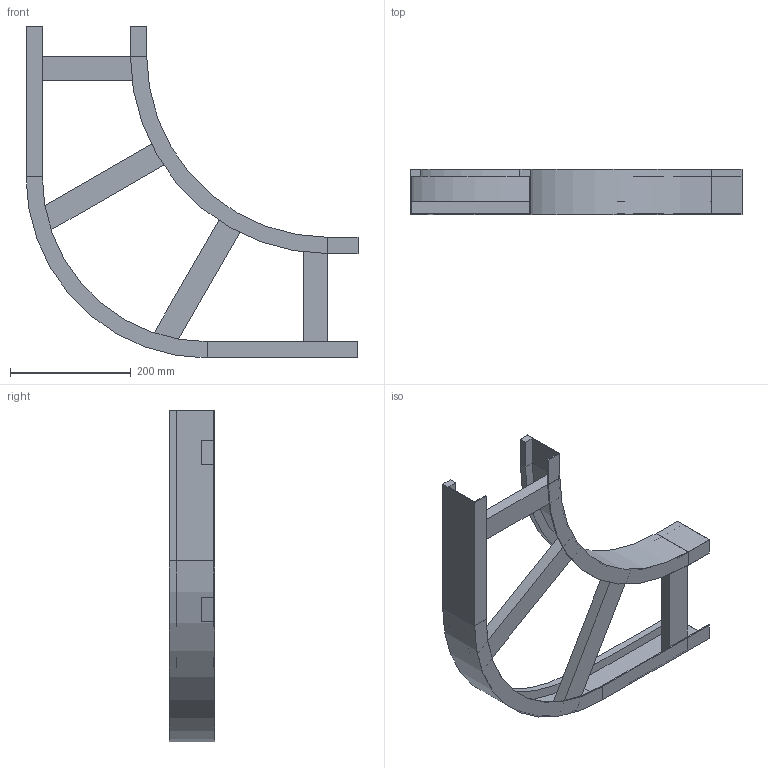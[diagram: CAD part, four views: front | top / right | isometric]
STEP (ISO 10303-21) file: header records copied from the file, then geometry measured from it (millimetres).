
FILE_DESCRIPTION (( 'STEP AP214' ), '1' );
FILE_NAME ('B2_10B3C200.step', '2025-02-21T15:26:50', ( '' ), ( '' ), 'SwSTEP 2.0', 'SolidWorks 2023', '' );
FILE_SCHEMA (( 'AUTOMOTIVE_DESIGN' ));
Length unit declared in the file: millimetre
Products named in the file (5): TRAVERSINO_300_SCANTONATO; TRAVERSINO_200; B2_10B3C200; B2_LONGH.INTERNO 90°_H75_R300; B2_LONGH.ESTERNO 90°_H75_R300+200
Assembly tree (6 placements, depth 2):
  B2_10B3C200
    B2_LONGH.INTERNO 90°_H75_R300
    B2_LONGH.ESTERNO 90°_H75_R300+200
    TRAVERSINO_200  x2
    TRAVERSINO_300_SCANTONATO  x2
Bounding box: 550 x 75 x 550 mm (x, y, z)
Volume: 1342966.3 mm3; surface area: 482417.8 mm2
Topology: 6 solids, 6 shells, 76 faces, 160 edges, 96 vertices
Faces by surface type: plane 68, cylinder 8
Entity records: 1830 total; most frequent: DIRECTION 298, CARTESIAN_POINT 289, ORIENTED_EDGE 272, EDGE_CURVE 136, LINE 120, VECTOR 120, AXIS2_PLACEMENT_3D 89, VERTEX_POINT 80
